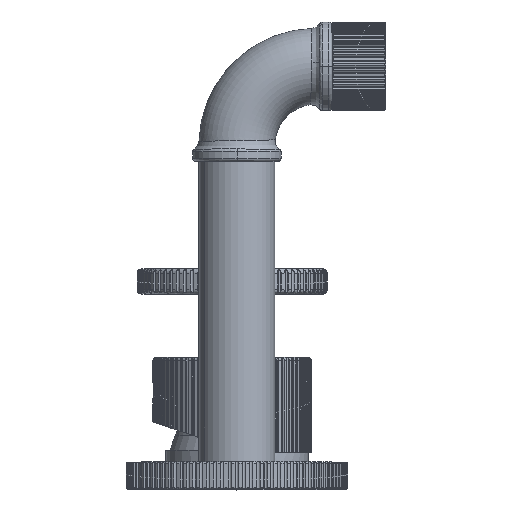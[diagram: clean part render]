
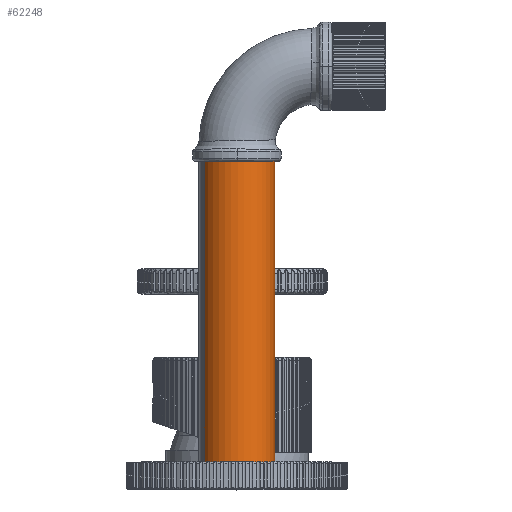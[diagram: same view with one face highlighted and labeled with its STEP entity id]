
A CAD part, top view. The second image highlights one B-rep face of the part: STEP entity #62248.
In plain terms, the highlighted cylindrical face has radius 12 mm (diameter 24 mm), a partial arc.
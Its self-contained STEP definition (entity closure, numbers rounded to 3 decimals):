
#1573 = EDGE_CURVE ( 'NONE', #45471, #63641, #85194, .T. ) ;
#8449 = CARTESIAN_POINT ( 'NONE',  ( 10.272, 104.18, 143.797 ) ) ;
#9195 = EDGE_CURVE ( 'NONE', #63641, #83256, #52271, .T. ) ;
#14821 = CARTESIAN_POINT ( 'NONE',  ( 10.272, 113.18, 143.797 ) ) ;
#15745 = DIRECTION ( 'NONE',  ( 0., 1., 0. ) ) ;
#18109 = DIRECTION ( 'NONE',  ( 0.856, 0., -0.517 ) ) ;
#19742 = VERTEX_POINT ( 'NONE', #38764 ) ;
#21614 = CARTESIAN_POINT ( 'NONE',  ( -10.272, 8., 156.203 ) ) ;
#25854 = CARTESIAN_POINT ( 'NONE',  ( 0., 8., 150. ) ) ;
#30687 = AXIS2_PLACEMENT_3D ( 'NONE', #82983, #62567, #18109 ) ;
#30966 = DIRECTION ( 'NONE',  ( 0., 1., 0. ) ) ;
#38764 = CARTESIAN_POINT ( 'NONE',  ( 10.272, 8., 143.797 ) ) ;
#39615 = DIRECTION ( 'NONE',  ( 0., 0., -1. ) ) ;
#40365 = FACE_OUTER_BOUND ( 'NONE', #78063, .T. ) ;
#41661 = CARTESIAN_POINT ( 'NONE',  ( -10.272, 104.18, 156.203 ) ) ;
#43456 = AXIS2_PLACEMENT_3D ( 'NONE', #25854, #47167, #39615 ) ;
#44209 = LINE ( 'NONE', #14821, #85164 ) ;
#44960 = CIRCLE ( 'NONE', #43456, 12. ) ;
#45113 = CARTESIAN_POINT ( 'NONE',  ( 0., 104.18, 150. ) ) ;
#45471 = VERTEX_POINT ( 'NONE', #21614 ) ;
#47167 = DIRECTION ( 'NONE',  ( 0., 1., 0. ) ) ;
#47925 = AXIS2_PLACEMENT_3D ( 'NONE', #45113, #15745, #73993 ) ;
#48755 = VECTOR ( 'NONE', #63872, 1000. ) ;
#49368 = ORIENTED_EDGE ( 'NONE', *, *, #9195, .F. ) ;
#52271 = CIRCLE ( 'NONE', #47925, 12. ) ;
#54092 = CYLINDRICAL_SURFACE ( 'NONE', #30687, 12. ) ;
#62248 = ADVANCED_FACE ( 'NONE', ( #40365 ), #54092, .T. ) ;
#62567 = DIRECTION ( 'NONE',  ( 0., 1., 0. ) ) ;
#63641 = VERTEX_POINT ( 'NONE', #41661 ) ;
#63872 = DIRECTION ( 'NONE',  ( 0., 1., 0. ) ) ;
#71165 = ORIENTED_EDGE ( 'NONE', *, *, #1573, .F. ) ;
#73993 = DIRECTION ( 'NONE',  ( 0.856, 0., -0.517 ) ) ;
#74942 = ORIENTED_EDGE ( 'NONE', *, *, #76834, .T. ) ;
#76834 = EDGE_CURVE ( 'NONE', #19742, #83256, #44209, .T. ) ;
#78063 = EDGE_LOOP ( 'NONE', ( #71165, #78416, #74942, #49368 ) ) ;
#78416 = ORIENTED_EDGE ( 'NONE', *, *, #86834, .T. ) ;
#82983 = CARTESIAN_POINT ( 'NONE',  ( 0., 113.18, 150. ) ) ;
#83256 = VERTEX_POINT ( 'NONE', #8449 ) ;
#83348 = CARTESIAN_POINT ( 'NONE',  ( -10.272, 113.18, 156.203 ) ) ;
#85164 = VECTOR ( 'NONE', #30966, 1000. ) ;
#85194 = LINE ( 'NONE', #83348, #48755 ) ;
#86834 = EDGE_CURVE ( 'NONE', #45471, #19742, #44960, .T. ) ;
